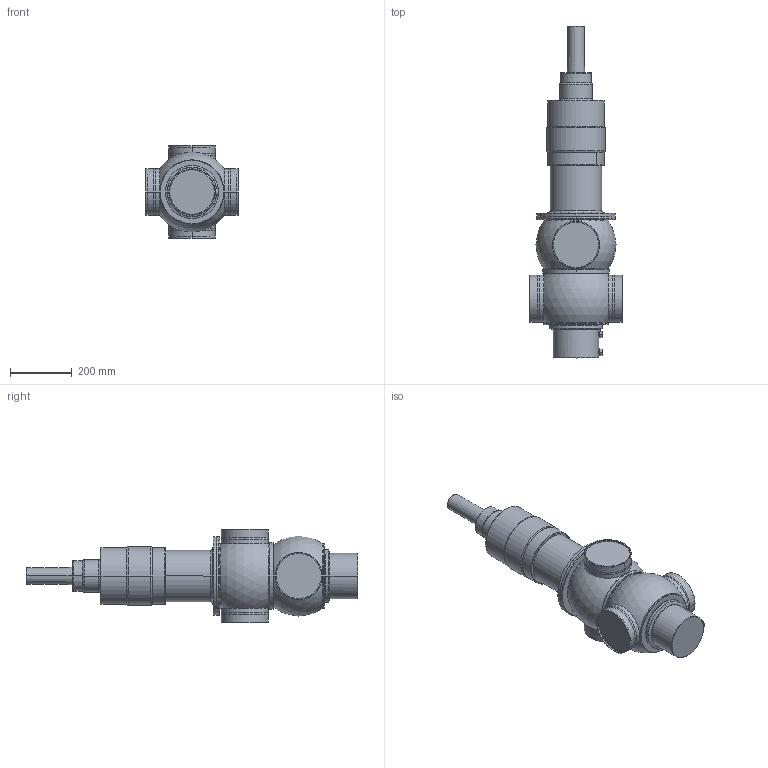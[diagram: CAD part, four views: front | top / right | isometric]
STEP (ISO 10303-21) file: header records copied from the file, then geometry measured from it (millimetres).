
FILE_DESCRIPTION(('Creo Elements/Direct Modeling STEP Export'),'2;1');
FILE_NAME('D44SL-6T_prox.stp','2019-09-04T 9:45:32',(''),(''),'PTC Creo Elements/Direct Modeling STEP processor for AP214 (Solid Model)','PTC Creo Elements/Direct Modeling 19.0B 21-Mar-2015 (C) Parametric Technology GmbH','');
FILE_SCHEMA(('AUTOMOTIVE_DESIGN { 1 0 10303 214 1 1 1 1 }'));
Length unit declared in the file: millimetre
Products named in the file (5): housing_D44-6T; D4_Prox._holder.; Actuator_D4-D4SL-180_Yoke; drain_pipe_138; D44SL-6T_prox
Assembly tree (4 placements, depth 2):
  D44SL-6T_prox
    drain_pipe_138
    Actuator_D4-D4SL-180_Yoke
    D4_Prox._holder.
    housing_D44-6T
Bounding box: 300 x 1078.5 x 300 mm (x, y, z)
Volume: 30910292.1 mm3; surface area: 975651 mm2
Topology: 4 solids, 4 shells, 172 faces, 397 edges, 248 vertices
Faces by surface type: cylinder 63, torus 57, plane 29, cone 16, sphere 4, bspline 3
Entity records: 7459 total; most frequent: CARTESIAN_POINT 3791, ORIENTED_EDGE 794, DIRECTION 732, EDGE_CURVE 397, AXIS2_PLACEMENT_3D 326, VERTEX_POINT 248, EDGE_LOOP 187, FACE_OUTER_BOUND 172
